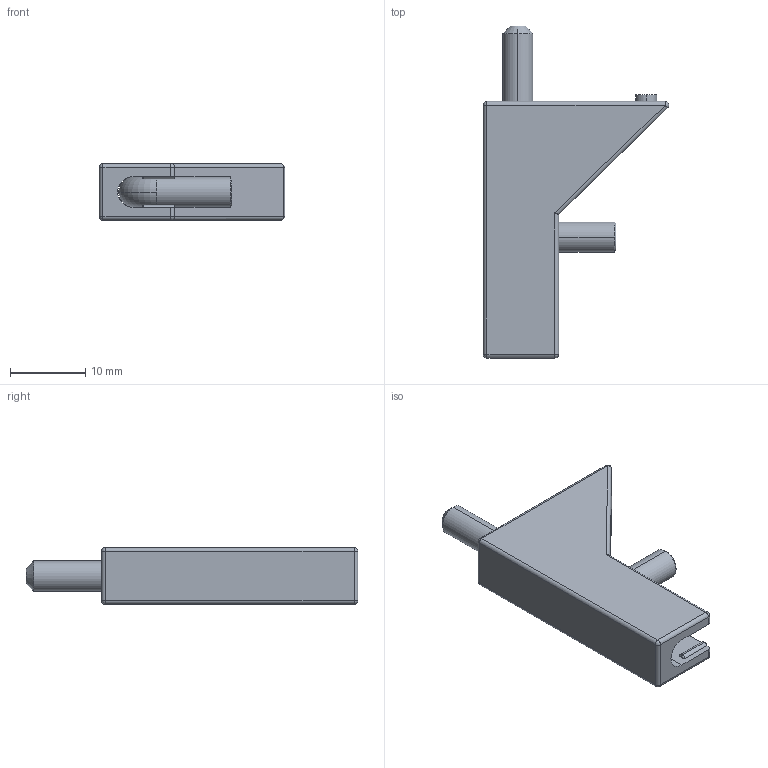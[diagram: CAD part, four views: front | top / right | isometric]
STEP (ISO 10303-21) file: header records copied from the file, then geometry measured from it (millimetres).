
FILE_DESCRIPTION (( 'STEP AP214' ), '1' );
FILE_NAME ('3.ST84.001.STEP', '2010-06-08T17:00:41', ( '£ukasz Cieæka' ), ( '' ), 'SwSTEP 2.0', 'SolidWorks 2010', '' );
FILE_SCHEMA (( 'AUTOMOTIVE_DESIGN' ));
Length unit declared in the file: millimetre
Products named in the file (3): 3.ST84.001.02; 3.St84.001.01; 3.ST84.001
Assembly tree (2 placements, depth 2):
  3.ST84.001
    3.St84.001.01
    3.ST84.001.02
Bounding box: 24.6 x 44 x 7.5 mm (x, y, z)
Volume: 3032.5 mm3; surface area: 2738.1 mm2
Topology: 2 solids, 2 shells, 92 faces, 234 edges, 139 vertices
Faces by surface type: cylinder 37, plane 32, torus 11, sphere 8, cone 4
Entity records: 2842 total; most frequent: CARTESIAN_POINT 530, DIRECTION 498, ORIENTED_EDGE 448, EDGE_CURVE 224, AXIS2_PLACEMENT_3D 193, VERTEX_POINT 137, VECTOR 112, LINE 112
